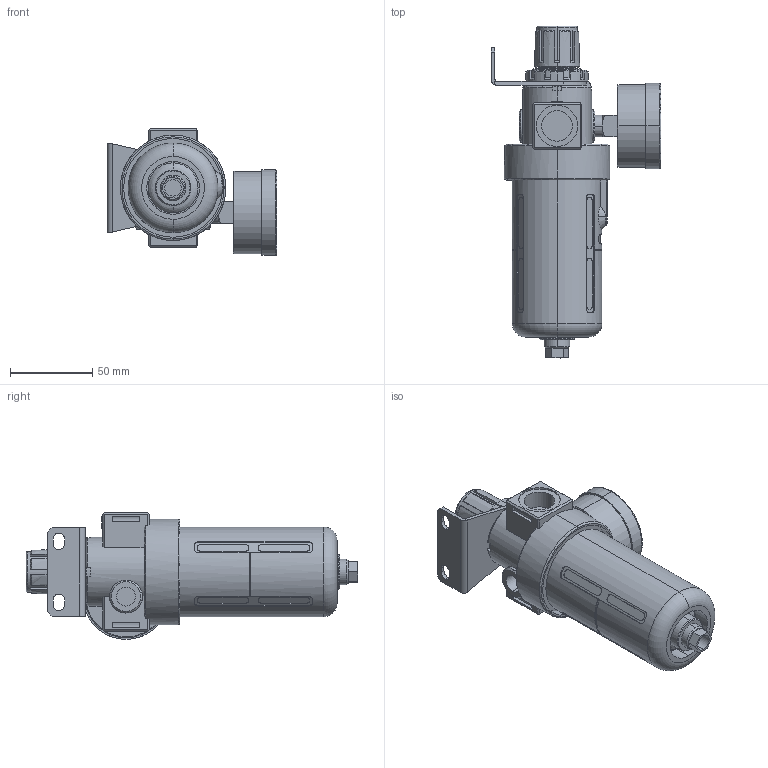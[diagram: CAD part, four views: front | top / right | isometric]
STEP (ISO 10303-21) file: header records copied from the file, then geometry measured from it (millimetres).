
FILE_DESCRIPTION (( 'STEP AP214' ), '1' );
FILE_NAME ('BFR-4000.STEP', '2016-01-21T16:11:39', ( '' ), ( '' ), 'SwSTEP 2.0', 'SolidWorks 2016', '' );
FILE_SCHEMA (( 'AUTOMOTIVE_DESIGN' ));
Length unit declared in the file: millimetre
Products named in the file (6): 4; 2; 3; 1; 5; BFR-4000
Assembly tree (5 placements, depth 2):
  BFR-4000
    1
    2
    3
    4
    5
Bounding box: 103 x 201.6 x 77 mm (x, y, z)
Volume: 265775.5 mm3; surface area: 90192.1 mm2
Topology: 5 solids, 5 shells, 1032 faces, 2807 edges, 1847 vertices
Faces by surface type: plane 650, cylinder 289, cone 71, torus 22
Entity records: 45879 total; most frequent: CARTESIAN_POINT 7856, ORIENTED_EDGE 5614, DIRECTION 5434, EDGE_CURVE 2807, VECTOR 1906, LINE 1906, VERTEX_POINT 1847, AXIS2_PLACEMENT_3D 1764
